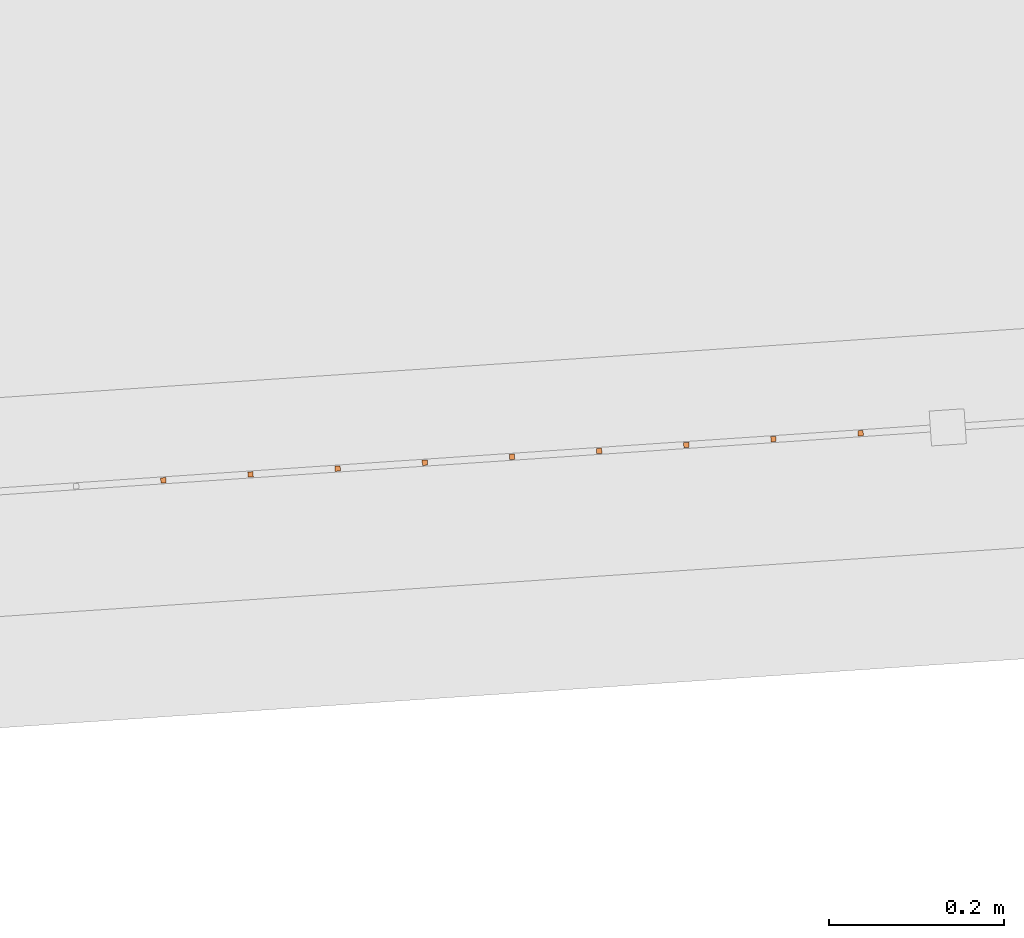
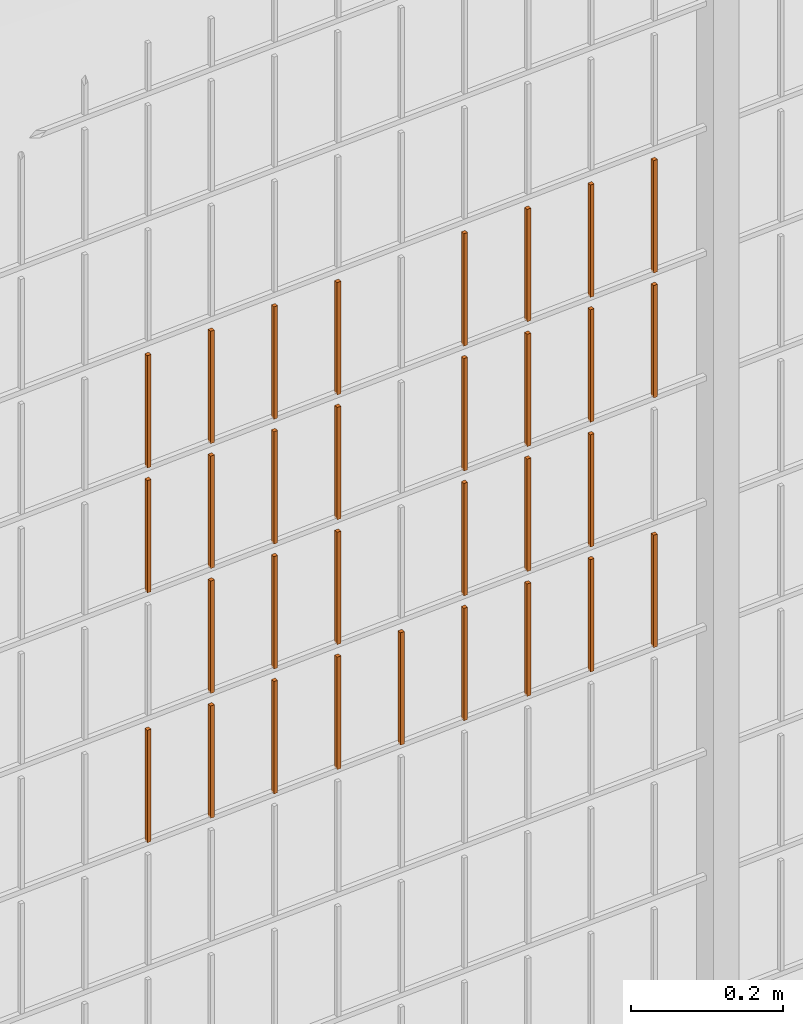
# One storey, part 305 of 1809: 31 proxies, 1 element without a shape of its own.
"""IFC2X3 building model written with IfcOpenShell, lengths in millimetres."""

from ifc_helpers import new_model, entity, si_unit, converted_unit, derived_unit, money_unit, direction, frame, origin_with_axes, place, context, subcontext, project, spatial, faceted_brep, source, transform, mapped, material, type_object, element, aggregate, save


model = new_model("IFC2X3")

# Units and contexts
model_context = context("Model", 3, precision=0.01, world=origin_with_axes(), true_north=direction((0.0, 1.0)))
body_context = subcontext(model_context, "Body", "Model", "MODEL_VIEW")
ifc_project = project(units=[si_unit("LENGTHUNIT", "METRE", prefix="MILLI"), si_unit("AREAUNIT", "SQUARE_METRE"), si_unit("VOLUMEUNIT", "CUBIC_METRE"), converted_unit("PLANEANGLEUNIT", "DEGREE", entity("IfcPlaneAngleMeasure", 0.0174532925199), si_unit("PLANEANGLEUNIT", "RADIAN"), dimensions=[0, 0, 0, 0, 0, 0, 0]), si_unit("SOLIDANGLEUNIT", "STERADIAN"), money_unit("EUR"), converted_unit("TIMEUNIT", "Year", entity("IfcTimeMeasure", 31556926.0), si_unit("TIMEUNIT", "SECOND"), dimensions=[0, 0, 1, 0, 0, 0, 0]), si_unit("MASSUNIT", "GRAM", prefix="KILO"), si_unit("THERMODYNAMICTEMPERATUREUNIT", "DEGREE_CELSIUS"), si_unit("LUMINOUSINTENSITYUNIT", "LUMEN"), si_unit("ENERGYUNIT", "JOULE", prefix="MEGA"), derived_unit("THERMALCONDUCTANCEUNIT", [(si_unit("POWERUNIT", "WATT"), 1), (si_unit("LENGTHUNIT", "METRE"), -1), (si_unit("THERMODYNAMICTEMPERATUREUNIT", "KELVIN"), -1)]), derived_unit("SPECIFICHEATCAPACITYUNIT", [(si_unit("ENERGYUNIT", "JOULE"), 1), (si_unit("MASSUNIT", "GRAM", prefix="KILO"), -1), (si_unit("THERMODYNAMICTEMPERATUREUNIT", "KELVIN"), -1)]), derived_unit("MASSDENSITYUNIT", [(si_unit("MASSUNIT", "GRAM", prefix="KILO"), 1), (si_unit("VOLUMEUNIT", "CUBIC_METRE"), -1)])], contexts=[model_context])

# Site, building, storey
site_placement = place(None, origin_with_axes())
site = spatial("IfcSite", under=ifc_project, at=site_placement, Name="Politse- ja Piirivalveameti ning Päästeameti ühishoone", CompositionType="ELEMENT")
building_placement = place(site_placement, origin_with_axes())
building = spatial("IfcBuilding", under=site, at=building_placement, Name="Politse- ja Piirivalveameti ning Päästeameti ühishoone", CompositionType="ELEMENT")
storey_placement = place(building_placement, origin_with_axes())
storey = spatial("IfcBuildingStorey", under=building, at=storey_placement, Name="Esimene korrus", CompositionType="ELEMENT", Elevation=0.0)

# Proxies
building_element_proxy_type_1 = type_object("IfcBuildingElementProxyType", Name="Railing Type", PredefinedType="NOTDEFINED")
proxy_1_placement = place(storey_placement, frame((89252.001212, -29183.4766571, 203.661247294), z_axis=(0.0, 0.0, 1.0), x_axis=(1.0, 0.0, 0.0)))
proxy_1 = element("IfcBuildingElementProxy", 1, at=proxy_1_placement, inside=storey, type_object=building_element_proxy_type_1, Name="PIIRDEAED")
ifc_material = material(Name="ET-03_Raud")
building_element_proxy_type_2 = type_object("IfcBuildingElementProxyType", Name="IfcBuildingElementProxy", PredefinedType="NOTDEFINED")
shared_shape_1 = source(origin_with_axes(), body_context, "Body", "Brep", [
    faceted_brep([(3.0, 3.0, -0.000752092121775), (-3.0, 3.0, -0.000752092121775), (-3.0, 3.0, 179.99926046), (3.0, 3.0, 179.99926046), (3.0, -3.0, 0.000752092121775), (-3.0, -3.0, 0.000752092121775), (-3.0, -3.0, 180.000764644), (3.0, -3.0, 180.000764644)], [[[0, 1, 2, 3]], [[0, 4, 5, 1]], [[1, 5, 6, 2]], [[3, 2, 6, 7]], [[4, 0, 3, 7]], [[5, 4, 7, 6]]]),
])
proxy_2_placement = place(proxy_1_placement, frame((-42928.8680952, -20197.4577937, 816.447707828), z_axis=(0.0, 0.0, 1.0), x_axis=(1.0, 0.0, 0.0)))
proxy_2 = element("IfcBuildingElementProxy", 2, at=proxy_2_placement, type_object=building_element_proxy_type_2, material=ifc_material, Name="BALUSTER - 001", context=body_context, shape_type="MappedRepresentation", body=[
    mapped(shared_shape_1, transform((0.0, 0.0, 0.0), x_axis=(-0.0673926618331, 0.997726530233, 0.0), y_axis=(-0.997726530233, -0.0673926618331, 0.0), z_axis=(0.0, 0.0, 1.0))),
])
shared_shape_2 = source(origin_with_axes(), body_context, "Body", "Brep", [
    faceted_brep([(3.0, 3.0, -0.000752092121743), (-3.0, 3.0, -0.000752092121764), (-3.0, 3.0, 179.99926046), (3.0, 3.0, 179.99926046), (3.0, -3.0, 0.000752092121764), (-3.0, -3.0, 0.000752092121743), (-3.0, -3.0, 180.000764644), (3.0, -3.0, 180.000764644)], [[[0, 1, 2, 3]], [[0, 4, 5, 1]], [[1, 5, 6, 2]], [[3, 2, 6, 7]], [[4, 0, 3, 7]], [[5, 4, 7, 6]]]),
])
proxy_3_placement = place(proxy_1_placement, frame((-42629.5501361, -20177.2399952, 816.52291704), z_axis=(0.0, 0.0, 1.0), x_axis=(1.0, 0.0, 0.0)))
proxy_3 = element("IfcBuildingElementProxy", 3, at=proxy_3_placement, type_object=building_element_proxy_type_2, material=ifc_material, Name="BALUSTER - 001", context=body_context, shape_type="MappedRepresentation", body=[
    mapped(shared_shape_2, transform((0.0, 0.0, 0.0), x_axis=(-0.0673926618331, 0.997726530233, 0.0), y_axis=(-0.997726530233, -0.0673926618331, 0.0), z_axis=(0.0, 0.0, 1.0))),
])
shared_shape_3 = source(origin_with_axes(), body_context, "Body", "Brep", [
    faceted_brep([(3.0, 3.0, -0.000752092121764), (-3.0, 3.0, -0.000752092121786), (-3.0, 3.0, 179.99926046), (3.0, 3.0, 179.99926046), (3.0, -3.0, 0.000752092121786), (-3.0, -3.0, 0.000752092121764), (-3.0, -3.0, 180.000764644), (3.0, -3.0, 180.000764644)], [[[0, 1, 2, 3]], [[0, 4, 5, 1]], [[1, 5, 6, 2]], [[3, 2, 6, 7]], [[4, 0, 3, 7]], [[5, 4, 7, 6]]]),
])
proxy_4_placement = place(proxy_1_placement, frame((-42529.7774831, -20170.500729, 816.547986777), z_axis=(0.0, 0.0, 1.0), x_axis=(1.0, 0.0, 0.0)))
proxy_4 = element("IfcBuildingElementProxy", 4, at=proxy_4_placement, type_object=building_element_proxy_type_2, material=ifc_material, Name="BALUSTER - 001", context=body_context, shape_type="MappedRepresentation", body=[
    mapped(shared_shape_3, transform((0.0, 0.0, 0.0), x_axis=(-0.0673926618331, 0.997726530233, 0.0), y_axis=(-0.997726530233, -0.0673926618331, 0.0), z_axis=(0.0, 0.0, 1.0))),
])
shared_shape_4 = source(origin_with_axes(), body_context, "Body", "Brep", [
    faceted_brep([(3.0, 3.0, -0.000752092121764), (-3.0, 3.0, -0.000752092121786), (-3.0, 3.0, 179.99926046), (3.0, 3.0, 179.99926046), (3.0, -3.0, 0.000752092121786), (-3.0, -3.0, 0.000752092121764), (-3.0, -3.0, 180.000764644), (3.0, -3.0, 180.000764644)], [[[0, 1, 2, 3]], [[0, 4, 5, 1]], [[1, 5, 6, 2]], [[3, 2, 6, 7]], [[4, 0, 3, 7]], [[5, 4, 7, 6]]]),
])
proxy_5_placement = place(proxy_1_placement, frame((-43128.4134013, -20210.9363261, 1216.39756835), z_axis=(0.0, 0.0, 1.0), x_axis=(1.0, 0.0, 0.0)))
proxy_5 = element("IfcBuildingElementProxy", 5, at=proxy_5_placement, type_object=building_element_proxy_type_2, material=ifc_material, Name="BALUSTER - 001", context=body_context, shape_type="MappedRepresentation", body=[
    mapped(shared_shape_4, transform((0.0, 0.0, 0.0), x_axis=(-0.0673926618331, 0.997726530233, 0.0), y_axis=(-0.997726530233, -0.0673926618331, 0.0), z_axis=(0.0, 0.0, 1.0))),
])
shared_shape_5 = source(origin_with_axes(), body_context, "Body", "Brep", [
    faceted_brep([(3.0, 3.0, -0.000752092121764), (-3.0, 3.0, -0.000752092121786), (-3.0, 3.0, 179.99926046), (3.0, 3.0, 179.99926046), (3.0, -3.0, 0.000752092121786), (-3.0, -3.0, 0.000752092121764), (-3.0, -3.0, 180.000764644), (3.0, -3.0, 180.000764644)], [[[0, 1, 2, 3]], [[0, 4, 5, 1]], [[1, 5, 6, 2]], [[3, 2, 6, 7]], [[4, 0, 3, 7]], [[5, 4, 7, 6]]]),
])
proxy_6_placement = place(proxy_1_placement, frame((-43128.4134013, -20210.9363261, 1416.39756835), z_axis=(0.0, 0.0, 1.0), x_axis=(1.0, 0.0, 0.0)))
proxy_6 = element("IfcBuildingElementProxy", 6, at=proxy_6_placement, type_object=building_element_proxy_type_2, material=ifc_material, Name="BALUSTER - 001", context=body_context, shape_type="MappedRepresentation", body=[
    mapped(shared_shape_5, transform((0.0, 0.0, 0.0), x_axis=(-0.0673926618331, 0.997726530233, 0.0), y_axis=(-0.997726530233, -0.0673926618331, 0.0), z_axis=(0.0, 0.0, 1.0))),
])
shared_shape_6 = source(origin_with_axes(), body_context, "Body", "Brep", [
    faceted_brep([(3.0, 3.0, -0.000752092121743), (-3.0, 3.0, -0.000752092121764), (-3.0, 3.0, 179.99926046), (3.0, 3.0, 179.99926046), (3.0, -3.0, 0.000752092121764), (-3.0, -3.0, 0.000752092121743), (-3.0, -3.0, 180.000764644), (3.0, -3.0, 180.000764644)], [[[0, 1, 2, 3]], [[0, 4, 5, 1]], [[1, 5, 6, 2]], [[3, 2, 6, 7]], [[4, 0, 3, 7]], [[5, 4, 7, 6]]]),
])
proxy_7_placement = place(proxy_1_placement, frame((-42629.5501361, -20177.2399952, 1216.52291704), z_axis=(0.0, 0.0, 1.0), x_axis=(1.0, 0.0, 0.0)))
proxy_7 = element("IfcBuildingElementProxy", 7, at=proxy_7_placement, type_object=building_element_proxy_type_2, material=ifc_material, Name="BALUSTER - 001", context=body_context, shape_type="MappedRepresentation", body=[
    mapped(shared_shape_6, transform((0.0, 0.0, 0.0), x_axis=(-0.0673926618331, 0.997726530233, 0.0), y_axis=(-0.997726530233, -0.0673926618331, 0.0), z_axis=(0.0, 0.0, 1.0))),
])
shared_shape_7 = source(origin_with_axes(), body_context, "Body", "Brep", [
    faceted_brep([(3.0, 3.0, -0.000752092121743), (-3.0, 3.0, -0.000752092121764), (-3.0, 3.0, 179.99926046), (3.0, 3.0, 179.99926046), (3.0, -3.0, 0.000752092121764), (-3.0, -3.0, 0.000752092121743), (-3.0, -3.0, 180.000764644), (3.0, -3.0, 180.000764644)], [[[0, 1, 2, 3]], [[0, 4, 5, 1]], [[1, 5, 6, 2]], [[3, 2, 6, 7]], [[4, 0, 3, 7]], [[5, 4, 7, 6]]]),
])
proxy_8_placement = place(proxy_1_placement, frame((-42629.5501361, -20177.2399952, 1416.52291704), z_axis=(0.0, 0.0, 1.0), x_axis=(1.0, 0.0, 0.0)))
proxy_8 = element("IfcBuildingElementProxy", 8, at=proxy_8_placement, type_object=building_element_proxy_type_2, material=ifc_material, Name="BALUSTER - 001", context=body_context, shape_type="MappedRepresentation", body=[
    mapped(shared_shape_7, transform((0.0, 0.0, 0.0), x_axis=(-0.0673926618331, 0.997726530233, 0.0), y_axis=(-0.997726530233, -0.0673926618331, 0.0), z_axis=(0.0, 0.0, 1.0))),
])
shared_shape_8 = source(origin_with_axes(), body_context, "Body", "Brep", [
    faceted_brep([(3.0, 3.0, -0.000752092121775), (-3.0, 3.0, -0.000752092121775), (-3.0, 3.0, 179.99926046), (3.0, 3.0, 179.99926046), (3.0, -3.0, 0.000752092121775), (-3.0, -3.0, 0.000752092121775), (-3.0, -3.0, 180.000764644), (3.0, -3.0, 180.000764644)], [[[0, 1, 2, 3]], [[0, 4, 5, 1]], [[1, 5, 6, 2]], [[3, 2, 6, 7]], [[4, 0, 3, 7]], [[5, 4, 7, 6]]]),
])
proxy_9_placement = place(proxy_1_placement, frame((-42330.2321771, -20157.0221966, 1416.59812625), z_axis=(0.0, 0.0, 1.0), x_axis=(1.0, 0.0, 0.0)))
proxy_9 = element("IfcBuildingElementProxy", 9, at=proxy_9_placement, type_object=building_element_proxy_type_2, material=ifc_material, Name="BALUSTER - 001", context=body_context, shape_type="MappedRepresentation", body=[
    mapped(shared_shape_8, transform((0.0, 0.0, 0.0), x_axis=(-0.0673926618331, 0.997726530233, 0.0), y_axis=(-0.997726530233, -0.0673926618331, 0.0), z_axis=(0.0, 0.0, 1.0))),
])
shared_shape_9 = source(origin_with_axes(), body_context, "Body", "Brep", [
    faceted_brep([(3.0, 3.0, -0.000752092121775), (-3.0, 3.0, -0.000752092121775), (-3.0, 3.0, 179.99926046), (3.0, 3.0, 179.99926046), (3.0, -3.0, 0.000752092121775), (-3.0, -3.0, 0.000752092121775), (-3.0, -3.0, 180.000764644), (3.0, -3.0, 180.000764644)], [[[0, 1, 2, 3]], [[0, 4, 5, 1]], [[1, 5, 6, 2]], [[3, 2, 6, 7]], [[4, 0, 3, 7]], [[5, 4, 7, 6]]]),
])
proxy_10_placement = place(proxy_1_placement, frame((-42330.2321771, -20157.0221966, 1216.59812625), z_axis=(0.0, 0.0, 1.0), x_axis=(1.0, 0.0, 0.0)))
proxy_10 = element("IfcBuildingElementProxy", 10, at=proxy_10_placement, type_object=building_element_proxy_type_2, material=ifc_material, Name="BALUSTER - 001", context=body_context, shape_type="MappedRepresentation", body=[
    mapped(shared_shape_9, transform((0.0, 0.0, 0.0), x_axis=(-0.0673926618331, 0.997726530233, 0.0), y_axis=(-0.997726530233, -0.0673926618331, 0.0), z_axis=(0.0, 0.0, 1.0))),
])
shared_shape_10 = source(origin_with_axes(), body_context, "Body", "Brep", [
    faceted_brep([(3.0, 3.0, -0.000752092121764), (-3.0, 3.0, -0.000752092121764), (-3.0, 3.0, 179.99926046), (3.0, 3.0, 179.99926046), (3.0, -3.0, 0.000752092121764), (-3.0, -3.0, 0.000752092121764), (-3.0, -3.0, 180.000764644), (3.0, -3.0, 180.000764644)], [[[0, 1, 2, 3]], [[0, 4, 5, 1]], [[1, 5, 6, 2]], [[3, 2, 6, 7]], [[4, 0, 3, 7]], [[5, 4, 7, 6]]]),
])
proxy_11_placement = place(proxy_1_placement, frame((-42928.8680952, -20197.4577937, 1216.44770783), z_axis=(0.0, 0.0, 1.0), x_axis=(1.0, 0.0, 0.0)))
proxy_11 = element("IfcBuildingElementProxy", 11, at=proxy_11_placement, type_object=building_element_proxy_type_2, material=ifc_material, Name="BALUSTER - 001", context=body_context, shape_type="MappedRepresentation", body=[
    mapped(shared_shape_10, transform((0.0, 0.0, 0.0), x_axis=(-0.0673926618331, 0.997726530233, 0.0), y_axis=(-0.997726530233, -0.0673926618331, 0.0), z_axis=(0.0, 0.0, 1.0))),
])
shared_shape_11 = source(origin_with_axes(), body_context, "Body", "Brep", [
    faceted_brep([(3.0, 3.0, -0.000752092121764), (-3.0, 3.0, -0.000752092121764), (-3.0, 3.0, 179.99926046), (3.0, 3.0, 179.99926046), (3.0, -3.0, 0.000752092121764), (-3.0, -3.0, 0.000752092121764), (-3.0, -3.0, 180.000764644), (3.0, -3.0, 180.000764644)], [[[0, 1, 2, 3]], [[0, 4, 5, 1]], [[1, 5, 6, 2]], [[3, 2, 6, 7]], [[4, 0, 3, 7]], [[5, 4, 7, 6]]]),
])
proxy_12_placement = place(proxy_1_placement, frame((-42928.8680952, -20197.4577937, 1416.44770783), z_axis=(0.0, 0.0, 1.0), x_axis=(1.0, 0.0, 0.0)))
proxy_12 = element("IfcBuildingElementProxy", 12, at=proxy_12_placement, type_object=building_element_proxy_type_2, material=ifc_material, Name="BALUSTER - 001", context=body_context, shape_type="MappedRepresentation", body=[
    mapped(shared_shape_11, transform((0.0, 0.0, 0.0), x_axis=(-0.0673926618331, 0.997726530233, 0.0), y_axis=(-0.997726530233, -0.0673926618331, 0.0), z_axis=(0.0, 0.0, 1.0))),
])
shared_shape_12 = source(origin_with_axes(), body_context, "Body", "Brep", [
    faceted_brep([(3.0, 3.0, -0.000752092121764), (-3.0, 3.0, -0.000752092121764), (-3.0, 3.0, 179.99926046), (3.0, 3.0, 179.99926046), (3.0, -3.0, 0.000752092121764), (-3.0, -3.0, 0.000752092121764), (-3.0, -3.0, 180.000764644), (3.0, -3.0, 180.000764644)], [[[0, 1, 2, 3]], [[0, 4, 5, 1]], [[1, 5, 6, 2]], [[3, 2, 6, 7]], [[4, 0, 3, 7]], [[5, 4, 7, 6]]]),
])
proxy_13_placement = place(proxy_1_placement, frame((-42829.0954422, -20190.7185276, 816.472777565), z_axis=(0.0, 0.0, 1.0), x_axis=(1.0, 0.0, 0.0)))
proxy_13 = element("IfcBuildingElementProxy", 13, at=proxy_13_placement, type_object=building_element_proxy_type_2, material=ifc_material, Name="BALUSTER - 001", context=body_context, shape_type="MappedRepresentation", body=[
    mapped(shared_shape_12, transform((0.0, 0.0, 0.0), x_axis=(-0.0673926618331, 0.997726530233, 0.0), y_axis=(-0.997726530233, -0.0673926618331, 0.0), z_axis=(0.0, 0.0, 1.0))),
])
shared_shape_13 = source(origin_with_axes(), body_context, "Body", "Brep", [
    faceted_brep([(3.0, 3.0, -0.000752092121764), (-3.0, 3.0, -0.000752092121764), (-3.0, 3.0, 179.99926046), (3.0, 3.0, 179.99926046), (3.0, -3.0, 0.000752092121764), (-3.0, -3.0, 0.000752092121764), (-3.0, -3.0, 180.000764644), (3.0, -3.0, 180.000764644)], [[[0, 1, 2, 3]], [[0, 4, 5, 1]], [[1, 5, 6, 2]], [[3, 2, 6, 7]], [[4, 0, 3, 7]], [[5, 4, 7, 6]]]),
])
proxy_14_placement = place(proxy_1_placement, frame((-42529.7774831, -20170.500729, 1216.54798678), z_axis=(0.0, 0.0, 1.0), x_axis=(1.0, 0.0, 0.0)))
proxy_14 = element("IfcBuildingElementProxy", 14, at=proxy_14_placement, type_object=building_element_proxy_type_2, material=ifc_material, Name="BALUSTER - 001", context=body_context, shape_type="MappedRepresentation", body=[
    mapped(shared_shape_13, transform((0.0, 0.0, 0.0), x_axis=(-0.0673926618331, 0.997726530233, 0.0), y_axis=(-0.997726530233, -0.0673926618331, 0.0), z_axis=(0.0, 0.0, 1.0))),
])
shared_shape_14 = source(origin_with_axes(), body_context, "Body", "Brep", [
    faceted_brep([(3.0, 3.0, -0.000752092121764), (-3.0, 3.0, -0.000752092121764), (-3.0, 3.0, 179.99926046), (3.0, 3.0, 179.99926046), (3.0, -3.0, 0.000752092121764), (-3.0, -3.0, 0.000752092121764), (-3.0, -3.0, 180.000764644), (3.0, -3.0, 180.000764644)], [[[0, 1, 2, 3]], [[0, 4, 5, 1]], [[1, 5, 6, 2]], [[3, 2, 6, 7]], [[4, 0, 3, 7]], [[5, 4, 7, 6]]]),
])
proxy_15_placement = place(proxy_1_placement, frame((-42529.7774831, -20170.500729, 1416.54798678), z_axis=(0.0, 0.0, 1.0), x_axis=(1.0, 0.0, 0.0)))
proxy_15 = element("IfcBuildingElementProxy", 15, at=proxy_15_placement, type_object=building_element_proxy_type_2, material=ifc_material, Name="BALUSTER - 001", context=body_context, shape_type="MappedRepresentation", body=[
    mapped(shared_shape_14, transform((0.0, 0.0, 0.0), x_axis=(-0.0673926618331, 0.997726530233, 0.0), y_axis=(-0.997726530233, -0.0673926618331, 0.0), z_axis=(0.0, 0.0, 1.0))),
])
shared_shape_15 = source(origin_with_axes(), body_context, "Body", "Brep", [
    faceted_brep([(3.0, 3.0, -0.000752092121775), (-3.0, 3.0, -0.000752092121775), (-3.0, 3.0, 179.99926046), (3.0, 3.0, 179.99926046), (3.0, -3.0, 0.000752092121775), (-3.0, -3.0, 0.000752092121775), (-3.0, -3.0, 180.000764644), (3.0, -3.0, 180.000764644)], [[[0, 1, 2, 3]], [[0, 4, 5, 1]], [[1, 5, 6, 2]], [[3, 2, 6, 7]], [[4, 0, 3, 7]], [[5, 4, 7, 6]]]),
])
proxy_16_placement = place(proxy_1_placement, frame((-42430.0048301, -20163.7614628, 1216.57305651), z_axis=(0.0, 0.0, 1.0), x_axis=(1.0, 0.0, 0.0)))
proxy_16 = element("IfcBuildingElementProxy", 16, at=proxy_16_placement, type_object=building_element_proxy_type_2, material=ifc_material, Name="BALUSTER - 001", context=body_context, shape_type="MappedRepresentation", body=[
    mapped(shared_shape_15, transform((0.0, 0.0, 0.0), x_axis=(-0.0673926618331, 0.997726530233, 0.0), y_axis=(-0.997726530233, -0.0673926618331, 0.0), z_axis=(0.0, 0.0, 1.0))),
])
shared_shape_16 = source(origin_with_axes(), body_context, "Body", "Brep", [
    faceted_brep([(3.0, 3.0, -0.000752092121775), (-3.0, 3.0, -0.000752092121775), (-3.0, 3.0, 179.99926046), (3.0, 3.0, 179.99926046), (3.0, -3.0, 0.000752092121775), (-3.0, -3.0, 0.000752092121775), (-3.0, -3.0, 180.000764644), (3.0, -3.0, 180.000764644)], [[[0, 1, 2, 3]], [[0, 4, 5, 1]], [[1, 5, 6, 2]], [[3, 2, 6, 7]], [[4, 0, 3, 7]], [[5, 4, 7, 6]]]),
])
proxy_17_placement = place(proxy_1_placement, frame((-42430.0048301, -20163.7614628, 816.573056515), z_axis=(0.0, 0.0, 1.0), x_axis=(1.0, 0.0, 0.0)))
proxy_17 = element("IfcBuildingElementProxy", 17, at=proxy_17_placement, type_object=building_element_proxy_type_2, material=ifc_material, Name="BALUSTER - 001", context=body_context, shape_type="MappedRepresentation", body=[
    mapped(shared_shape_16, transform((0.0, 0.0, 0.0), x_axis=(-0.0673926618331, 0.997726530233, 0.0), y_axis=(-0.997726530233, -0.0673926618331, 0.0), z_axis=(0.0, 0.0, 1.0))),
])
proxy_18_placement = place(proxy_1_placement, frame((-42829.0954422, -20190.7185276, 1216.47277757), z_axis=(0.0, 0.0, 1.0), x_axis=(1.0, 0.0, 0.0)))
proxy_18 = element("IfcBuildingElementProxy", 18, at=proxy_18_placement, type_object=building_element_proxy_type_2, material=ifc_material, Name="BALUSTER - 001", context=body_context, shape_type="MappedRepresentation", body=[
    mapped(shared_shape_16, transform((0.0, 0.0, 0.0), x_axis=(-0.0673926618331, 0.997726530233, 0.0), y_axis=(-0.997726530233, -0.0673926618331, 0.0), z_axis=(0.0, 0.0, 1.0))),
])
shared_shape_17 = source(origin_with_axes(), body_context, "Body", "Brep", [
    faceted_brep([(3.0, 3.0, -0.000752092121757), (-3.0, 3.0, -0.000752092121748), (-3.00000000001, 2.99999999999, 179.99926046), (2.99999999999, 2.99999999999, 179.99926046), (3.0, -3.0, 0.000752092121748), (-3.0, -3.0, 0.000752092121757), (-3.00000000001, -3.00000000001, 180.000764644), (2.99999999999, -3.00000000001, 180.000764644)], [[[0, 1, 2, 3]], [[0, 4, 5, 1]], [[1, 5, 6, 2]], [[3, 2, 6, 7]], [[4, 0, 3, 7]], [[5, 4, 7, 6]]]),
])
proxy_19_placement = place(proxy_1_placement, frame((-42928.8680952, -20197.4577937, 1016.44770783), z_axis=(0.0, 0.0, 1.0), x_axis=(1.0, 0.0, 0.0)))
proxy_19 = element("IfcBuildingElementProxy", 19, at=proxy_19_placement, type_object=building_element_proxy_type_2, material=ifc_material, Name="BALUSTER - 001", context=body_context, shape_type="MappedRepresentation", body=[
    mapped(shared_shape_17, transform((0.0, 0.0, 0.0), x_axis=(-0.0673926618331, 0.997726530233, 0.0), y_axis=(-0.997726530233, -0.0673926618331, 0.0), z_axis=(0.0, 0.0, 1.0))),
])
shared_shape_18 = source(origin_with_axes(), body_context, "Body", "Brep", [
    faceted_brep([(3.0, 3.0, -0.000752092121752), (-3.0, 3.0, -0.000752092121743), (-3.00000000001, 2.99999999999, 179.99926046), (2.99999999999, 2.99999999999, 179.99926046), (3.0, -3.0, 0.000752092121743), (-3.0, -3.0, 0.000752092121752), (-3.00000000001, -3.00000000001, 180.000764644), (2.99999999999, -3.00000000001, 180.000764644)], [[[0, 1, 2, 3]], [[0, 4, 5, 1]], [[1, 5, 6, 2]], [[3, 2, 6, 7]], [[4, 0, 3, 7]], [[5, 4, 7, 6]]]),
])
proxy_20_placement = place(proxy_1_placement, frame((-42629.5501361, -20177.2399952, 1016.52291704), z_axis=(0.0, 0.0, 1.0), x_axis=(1.0, 0.0, 0.0)))
proxy_20 = element("IfcBuildingElementProxy", 20, at=proxy_20_placement, type_object=building_element_proxy_type_2, material=ifc_material, Name="BALUSTER - 001", context=body_context, shape_type="MappedRepresentation", body=[
    mapped(shared_shape_18, transform((0.0, 0.0, 0.0), x_axis=(-0.0673926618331, 0.997726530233, 0.0), y_axis=(-0.997726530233, -0.0673926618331, 0.0), z_axis=(0.0, 0.0, 1.0))),
])
shared_shape_19 = source(origin_with_axes(), body_context, "Body", "Brep", [
    faceted_brep([(3.0, 3.0, -0.000752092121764), (-3.0, 3.0, -0.000752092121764), (-3.0, 3.0, 179.99926046), (3.0, 3.0, 179.99926046), (3.0, -3.0, 0.000752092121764), (-3.0, -3.0, 0.000752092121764), (-3.0, -3.0, 180.000764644), (3.0, -3.0, 180.000764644)], [[[0, 1, 2, 3]], [[0, 4, 5, 1]], [[1, 5, 6, 2]], [[3, 2, 6, 7]], [[4, 0, 3, 7]], [[5, 4, 7, 6]]]),
])
proxy_21_placement = place(proxy_1_placement, frame((-43128.4134013, -20210.9363261, 816.397568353), z_axis=(0.0, 0.0, 1.0), x_axis=(1.0, 0.0, 0.0)))
proxy_21 = element("IfcBuildingElementProxy", 21, at=proxy_21_placement, type_object=building_element_proxy_type_2, material=ifc_material, Name="BALUSTER - 001", context=body_context, shape_type="MappedRepresentation", body=[
    mapped(shared_shape_19, transform((0.0, 0.0, 0.0), x_axis=(-0.0673926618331, 0.997726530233, 0.0), y_axis=(-0.997726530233, -0.0673926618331, 0.0), z_axis=(0.0, 0.0, 1.0))),
])
shared_shape_20 = source(origin_with_axes(), body_context, "Body", "Brep", [
    faceted_brep([(3.0, 3.0, -0.000752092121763), (-3.0, 3.0, -0.000752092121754), (-3.00000000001, 2.99999999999, 179.99926046), (2.99999999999, 2.99999999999, 179.99926046), (3.0, -3.0, 0.000752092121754), (-3.0, -3.0, 0.000752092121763), (-3.00000000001, -3.00000000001, 180.000764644), (2.99999999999, -3.00000000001, 180.000764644)], [[[0, 1, 2, 3]], [[0, 4, 5, 1]], [[1, 5, 6, 2]], [[3, 2, 6, 7]], [[4, 0, 3, 7]], [[5, 4, 7, 6]]]),
])
proxy_22_placement = place(proxy_1_placement, frame((-42829.0954422, -20190.7185276, 1016.47277757), z_axis=(0.0, 0.0, 1.0), x_axis=(1.0, 0.0, 0.0)))
proxy_22 = element("IfcBuildingElementProxy", 22, at=proxy_22_placement, type_object=building_element_proxy_type_2, material=ifc_material, Name="BALUSTER - 001", context=body_context, shape_type="MappedRepresentation", body=[
    mapped(shared_shape_20, transform((0.0, 0.0, 0.0), x_axis=(-0.0673926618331, 0.997726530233, 0.0), y_axis=(-0.997726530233, -0.0673926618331, 0.0), z_axis=(0.0, 0.0, 1.0))),
])
shared_shape_21 = source(origin_with_axes(), body_context, "Body", "Brep", [
    faceted_brep([(3.0, 3.0, -0.000752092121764), (-3.0, 3.0, -0.000752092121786), (-3.0, 3.0, 179.99926046), (3.0, 3.0, 179.99926046), (3.0, -3.0, 0.000752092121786), (-3.0, -3.0, 0.000752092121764), (-3.0, -3.0, 180.000764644), (3.0, -3.0, 180.000764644)], [[[0, 1, 2, 3]], [[0, 4, 5, 1]], [[1, 5, 6, 2]], [[3, 2, 6, 7]], [[4, 0, 3, 7]], [[5, 4, 7, 6]]]),
])
proxy_23_placement = place(proxy_1_placement, frame((-42330.2321771, -20157.0221966, 816.598126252), z_axis=(0.0, 0.0, 1.0), x_axis=(1.0, 0.0, 0.0)))
proxy_23 = element("IfcBuildingElementProxy", 23, at=proxy_23_placement, type_object=building_element_proxy_type_2, material=ifc_material, Name="BALUSTER - 001", context=body_context, shape_type="MappedRepresentation", body=[
    mapped(shared_shape_21, transform((0.0, 0.0, 0.0), x_axis=(-0.0673926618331, 0.997726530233, 0.0), y_axis=(-0.997726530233, -0.0673926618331, 0.0), z_axis=(0.0, 0.0, 1.0))),
])
shared_shape_22 = source(origin_with_axes(), body_context, "Body", "Brep", [
    faceted_brep([(3.0, 3.0, -0.000752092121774), (-3.0, 3.0, -0.000752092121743), (-3.00000000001, 2.99999999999, 179.99926046), (2.99999999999, 2.99999999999, 179.99926046), (3.0, -3.0, 0.000752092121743), (-3.0, -3.0, 0.000752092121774), (-3.00000000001, -3.00000000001, 180.000764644), (2.99999999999, -3.00000000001, 180.000764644)], [[[0, 1, 2, 3]], [[0, 4, 5, 1]], [[1, 5, 6, 2]], [[3, 2, 6, 7]], [[4, 0, 3, 7]], [[5, 4, 7, 6]]]),
])
proxy_24_placement = place(proxy_1_placement, frame((-43028.6407482, -20204.1970599, 1016.42263809), z_axis=(0.0, 0.0, 1.0), x_axis=(1.0, 0.0, 0.0)))
proxy_24 = element("IfcBuildingElementProxy", 24, at=proxy_24_placement, type_object=building_element_proxy_type_2, material=ifc_material, Name="BALUSTER - 001", context=body_context, shape_type="MappedRepresentation", body=[
    mapped(shared_shape_22, transform((0.0, 0.0, 0.0), x_axis=(-0.0673926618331, 0.997726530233, 0.0), y_axis=(-0.997726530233, -0.0673926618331, 0.0), z_axis=(0.0, 0.0, 1.0))),
])
shared_shape_23 = source(origin_with_axes(), body_context, "Body", "Brep", [
    faceted_brep([(3.0, 3.0, -0.000752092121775), (-3.0, 3.0, -0.000752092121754), (-3.0, 3.0, 179.99926046), (3.0, 3.0, 179.99926046), (3.0, -3.0, 0.000752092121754), (-3.0, -3.0, 0.000752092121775), (-3.0, -3.0, 180.000764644), (3.0, -3.0, 180.000764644)], [[[0, 1, 2, 3]], [[0, 4, 5, 1]], [[1, 5, 6, 2]], [[3, 2, 6, 7]], [[4, 0, 3, 7]], [[5, 4, 7, 6]]]),
])
proxy_25_placement = place(proxy_1_placement, frame((-42729.3227892, -20183.9792614, 816.497847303), z_axis=(0.0, 0.0, 1.0), x_axis=(1.0, 0.0, 0.0)))
proxy_25 = element("IfcBuildingElementProxy", 25, at=proxy_25_placement, type_object=building_element_proxy_type_2, material=ifc_material, Name="BALUSTER - 001", context=body_context, shape_type="MappedRepresentation", body=[
    mapped(shared_shape_23, transform((0.0, 0.0, 0.0), x_axis=(-0.0673926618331, 0.997726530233, 0.0), y_axis=(-0.997726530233, -0.0673926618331, 0.0), z_axis=(0.0, 0.0, 1.0))),
])
proxy_26_placement = place(proxy_1_placement, frame((-43028.6407482, -20204.1970599, 816.42263809), z_axis=(0.0, 0.0, 1.0), x_axis=(1.0, 0.0, 0.0)))
proxy_26 = element("IfcBuildingElementProxy", 26, at=proxy_26_placement, type_object=building_element_proxy_type_2, material=ifc_material, Name="BALUSTER - 001", context=body_context, shape_type="MappedRepresentation", body=[
    mapped(shared_shape_23, transform((0.0, 0.0, 0.0), x_axis=(-0.0673926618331, 0.997726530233, 0.0), y_axis=(-0.997726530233, -0.0673926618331, 0.0), z_axis=(0.0, 0.0, 1.0))),
])
proxy_27_placement = place(proxy_1_placement, frame((-43028.6407482, -20204.1970599, 1216.42263809), z_axis=(0.0, 0.0, 1.0), x_axis=(1.0, 0.0, 0.0)))
proxy_27 = element("IfcBuildingElementProxy", 27, at=proxy_27_placement, type_object=building_element_proxy_type_2, material=ifc_material, Name="BALUSTER - 001", context=body_context, shape_type="MappedRepresentation", body=[
    mapped(shared_shape_23, transform((0.0, 0.0, 0.0), x_axis=(-0.0673926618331, 0.997726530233, 0.0), y_axis=(-0.997726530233, -0.0673926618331, 0.0), z_axis=(0.0, 0.0, 1.0))),
])
shared_shape_24 = source(origin_with_axes(), body_context, "Body", "Brep", [
    faceted_brep([(3.0, 3.0, -0.000752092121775), (-3.0, 3.0, -0.000752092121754), (-3.0, 3.0, 179.99926046), (3.0, 3.0, 179.99926046), (3.0, -3.0, 0.000752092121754), (-3.0, -3.0, 0.000752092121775), (-3.0, -3.0, 180.000764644), (3.0, -3.0, 180.000764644)], [[[0, 1, 2, 3]], [[0, 4, 5, 1]], [[1, 5, 6, 2]], [[3, 2, 6, 7]], [[4, 0, 3, 7]], [[5, 4, 7, 6]]]),
])
proxy_28_placement = place(proxy_1_placement, frame((-43028.6407482, -20204.1970599, 1416.42263809), z_axis=(0.0, 0.0, 1.0), x_axis=(1.0, 0.0, 0.0)))
proxy_28 = element("IfcBuildingElementProxy", 28, at=proxy_28_placement, type_object=building_element_proxy_type_2, material=ifc_material, Name="BALUSTER - 001", context=body_context, shape_type="MappedRepresentation", body=[
    mapped(shared_shape_24, transform((0.0, 0.0, 0.0), x_axis=(-0.0673926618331, 0.997726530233, 0.0), y_axis=(-0.997726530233, -0.0673926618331, 0.0), z_axis=(0.0, 0.0, 1.0))),
])
shared_shape_25 = source(origin_with_axes(), body_context, "Body", "Brep", [
    faceted_brep([(3.0, 3.0, -0.000752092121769), (-3.0, 3.0, -0.00075209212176), (-3.00000000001, 3.0, 179.99926046), (2.99999999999, 3.0, 179.99926046), (3.0, -3.0, 0.00075209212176), (-3.0, -3.0, 0.000752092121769), (-3.00000000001, -3.0, 180.000764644), (2.99999999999, -3.0, 180.000764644)], [[[0, 1, 2, 3]], [[0, 4, 5, 1]], [[1, 5, 6, 2]], [[3, 2, 6, 7]], [[4, 0, 3, 7]], [[5, 4, 7, 6]]]),
])
proxy_29_placement = place(proxy_1_placement, frame((-42430.0048301, -20163.7614628, 1016.57305651), z_axis=(0.0, 0.0, 1.0), x_axis=(1.0, 0.0, 0.0)))
proxy_29 = element("IfcBuildingElementProxy", 29, at=proxy_29_placement, type_object=building_element_proxy_type_2, material=ifc_material, Name="BALUSTER - 001", context=body_context, shape_type="MappedRepresentation", body=[
    mapped(shared_shape_25, transform((0.0, 0.0, 0.0), x_axis=(-0.0673926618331, 0.997726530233, 0.0), y_axis=(-0.997726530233, -0.0673926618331, 0.0), z_axis=(0.0, 0.0, 1.0))),
])
shared_shape_26 = source(origin_with_axes(), body_context, "Body", "Brep", [
    faceted_brep([(3.0, 3.0, -0.000752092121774), (-3.0, 3.0, -0.000752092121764), (-3.00000000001, 2.99999999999, 179.99926046), (2.99999999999, 2.99999999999, 179.99926046), (3.0, -3.0, 0.000752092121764), (-3.0, -3.0, 0.000752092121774), (-3.00000000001, -3.00000000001, 180.000764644), (2.99999999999, -3.00000000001, 180.000764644)], [[[0, 1, 2, 3]], [[0, 4, 5, 1]], [[1, 5, 6, 2]], [[3, 2, 6, 7]], [[4, 0, 3, 7]], [[5, 4, 7, 6]]]),
])
proxy_30_placement = place(proxy_1_placement, frame((-42529.7774831, -20170.500729, 1016.54798678), z_axis=(0.0, 0.0, 1.0), x_axis=(1.0, 0.0, 0.0)))
proxy_30 = element("IfcBuildingElementProxy", 30, at=proxy_30_placement, type_object=building_element_proxy_type_2, material=ifc_material, Name="BALUSTER - 001", context=body_context, shape_type="MappedRepresentation", body=[
    mapped(shared_shape_26, transform((0.0, 0.0, 0.0), x_axis=(-0.0673926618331, 0.997726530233, 0.0), y_axis=(-0.997726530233, -0.0673926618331, 0.0), z_axis=(0.0, 0.0, 1.0))),
])
shared_shape_27 = source(origin_with_axes(), body_context, "Body", "Brep", [
    faceted_brep([(3.0, 3.0, -0.000752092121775), (-3.0, 3.0, -0.000752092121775), (-3.0, 3.0, 179.99926046), (3.0, 3.0, 179.99926046), (3.0, -3.0, 0.000752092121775), (-3.0, -3.0, 0.000752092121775), (-3.0, -3.0, 180.000764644), (3.0, -3.0, 180.000764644)], [[[0, 1, 2, 3]], [[0, 4, 5, 1]], [[1, 5, 6, 2]], [[3, 2, 6, 7]], [[4, 0, 3, 7]], [[5, 4, 7, 6]]]),
])
proxy_31_placement = place(proxy_1_placement, frame((-42430.0048301, -20163.7614628, 1416.57305651), z_axis=(0.0, 0.0, 1.0), x_axis=(1.0, 0.0, 0.0)))
proxy_31 = element("IfcBuildingElementProxy", 31, at=proxy_31_placement, type_object=building_element_proxy_type_2, material=ifc_material, Name="BALUSTER - 001", context=body_context, shape_type="MappedRepresentation", body=[
    mapped(shared_shape_27, transform((0.0, 0.0, 0.0), x_axis=(-0.0673926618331, 0.997726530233, 0.0), y_axis=(-0.997726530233, -0.0673926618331, 0.0), z_axis=(0.0, 0.0, 1.0))),
])
shared_shape_28 = source(origin_with_axes(), body_context, "Body", "Brep", [
    faceted_brep([(3.0, 3.0, -0.000752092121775), (-3.0, 3.0, -0.000752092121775), (-3.0, 3.0, 179.99926046), (3.0, 3.0, 179.99926046), (3.0, -3.0, 0.000752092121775), (-3.0, -3.0, 0.000752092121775), (-3.0, -3.0, 180.000764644), (3.0, -3.0, 180.000764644)], [[[0, 1, 2, 3]], [[0, 4, 5, 1]], [[1, 5, 6, 2]], [[3, 2, 6, 7]], [[4, 0, 3, 7]], [[5, 4, 7, 6]]]),
])
proxy_32_placement = place(proxy_1_placement, frame((-42829.0954422, -20190.7185276, 1416.47277757), z_axis=(0.0, 0.0, 1.0), x_axis=(1.0, 0.0, 0.0)))
proxy_32 = element("IfcBuildingElementProxy", 32, at=proxy_32_placement, type_object=building_element_proxy_type_2, material=ifc_material, Name="BALUSTER - 001", context=body_context, shape_type="MappedRepresentation", body=[
    mapped(shared_shape_28, transform((0.0, 0.0, 0.0), x_axis=(-0.0673926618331, 0.997726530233, 0.0), y_axis=(-0.997726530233, -0.0673926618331, 0.0), z_axis=(0.0, 0.0, 1.0))),
])
aggregate(proxy_1, [proxy_23, proxy_17, proxy_4, proxy_3, proxy_25, proxy_13, proxy_2, proxy_26, proxy_21, proxy_29, proxy_30, proxy_20, proxy_22, proxy_19, proxy_24, proxy_10, proxy_16, proxy_14, proxy_7, proxy_18, proxy_11, proxy_27, proxy_5, proxy_9, proxy_31, proxy_15, proxy_8, proxy_32, proxy_12, proxy_28, proxy_6])

save(model, "model.ifc")
